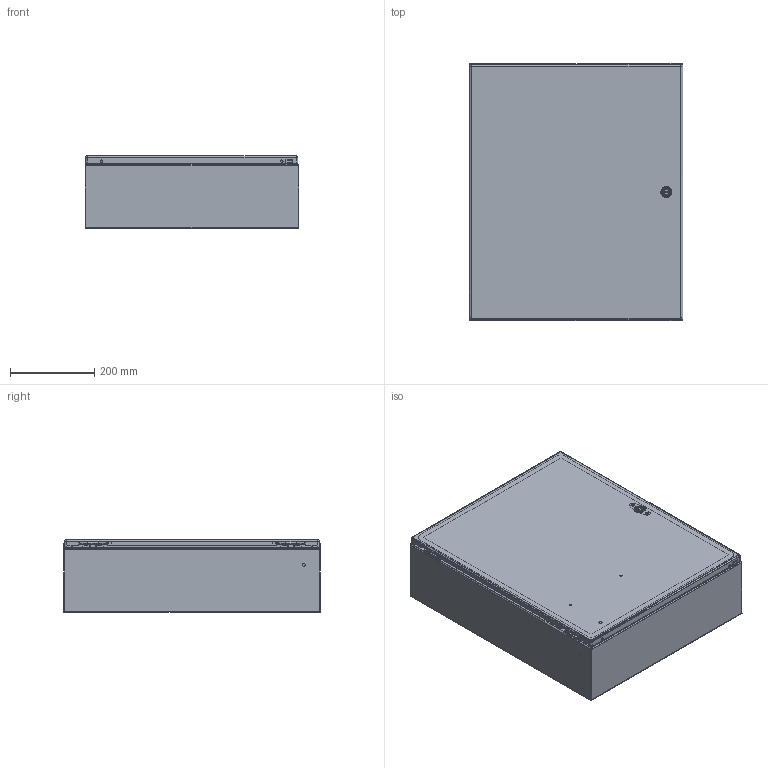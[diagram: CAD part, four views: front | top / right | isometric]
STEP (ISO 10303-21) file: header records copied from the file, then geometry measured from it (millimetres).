
FILE_DESCRIPTION (( 'STEP AP203' ), '1' );
FILE_NAME ('csd24206lg.STEP', '2012-04-19T20:40:55', ( 'Hoffman User' ), ( 'Hoffman Enclosures' ), 'SwSTEP 2.0', 'SolidWorks 2010', '' );
FILE_SCHEMA (( 'CONFIG_CONTROL_DESIGN' ));
Length unit declared in the file: inch
Products named in the file (27): csd24206lg; 87934516; 87934319_default; 23271001_After Weld; 87937931_assy; 87937971_weldment; 87936130; 99401225; 87931362_87931362; 64101001; 64201001; 87541994_Installed Height; 87541995; 64202001; 64210001; 64203001; 87927840_87927840; 87932903; 64138001; 89057563; 87543027; 89076399; 89076193; 89056623; 87929507; 87929767; 87929769_Installed on Pin
Assembly tree (38 placements, depth 4):
  csd24206lg
    87937931_assy
      87932903  x2
      64138001  x2
      64101001
        64202001
        87541995
        87927840_87927840
        87541994_Installed Height
        64210001
        64201001
        64203001
      89057563
      87937971_weldment
        87931362_87931362  x4
        87936130
        99401225
    87543027  x2
    87934516
      23271001_After Weld  x4
      87934319_default
      99401225
    89076399  x2
      89076193
      89056623
    87929507  x2
      87929767
      87929769_Installed on Pin
Bounding box: 508 x 610.33 x 173.1 mm (x, y, z)
Volume: 1484302.3 mm3; surface area: 2228844.1 mm2
Topology: 35 solids, 35 shells, 1689 faces, 4125 edges, 2490 vertices
Faces by surface type: plane 652, cylinder 547, bspline 288, torus 106, cone 88, sphere 8
Entity records: 46223 total; most frequent: CARTESIAN_POINT 16302, ORIENTED_EDGE 5874, DIRECTION 5117, EDGE_CURVE 2937, AXIS2_PLACEMENT_3D 1833, VERTEX_POINT 1802, VECTOR 1451, LINE 1451
